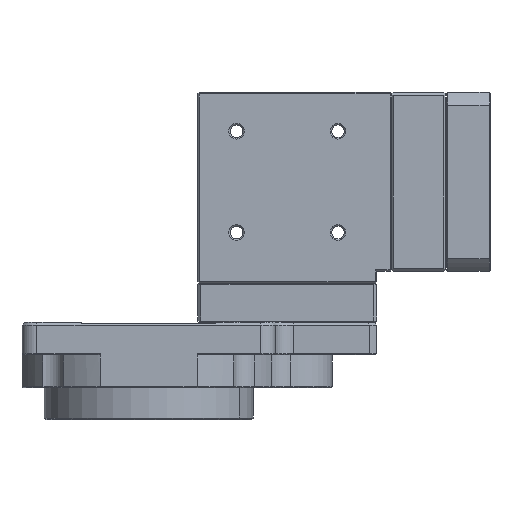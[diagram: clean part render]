
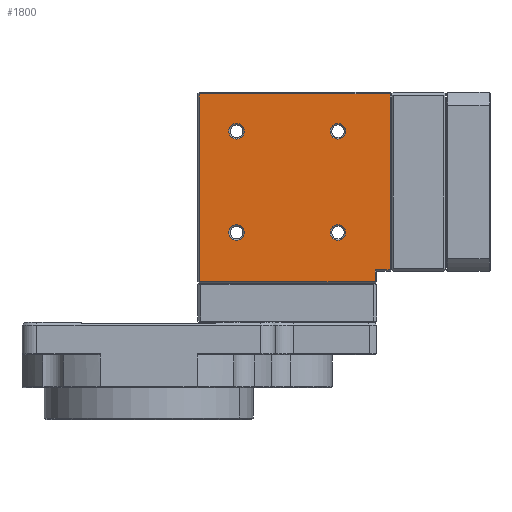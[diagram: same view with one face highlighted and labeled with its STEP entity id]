
A CAD part, left-side view. The second image highlights one B-rep face of the part: STEP entity #1800.
In plain terms, the highlighted planar face has unit normal (-1, 0, 0).
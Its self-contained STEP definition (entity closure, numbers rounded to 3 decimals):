
#1800 = ADVANCED_FACE ( 'NONE', ( #30659, #30667, #30658, #30688, #30679 ), #4026, .T. ) ;
#2734 = VERTEX_POINT ( 'NONE', #4274 ) ;
#2751 = VERTEX_POINT ( 'NONE', #4280 ) ;
#2752 = VERTEX_POINT ( 'NONE', #4307 ) ;
#2805 = VERTEX_POINT ( 'NONE', #4335 ) ;
#2811 = VERTEX_POINT ( 'NONE', #4356 ) ;
#2821 = VERTEX_POINT ( 'NONE', #4379 ) ;
#2823 = VERTEX_POINT ( 'NONE', #4365 ) ;
#2845 = VERTEX_POINT ( 'NONE', #4390 ) ;
#2848 = VERTEX_POINT ( 'NONE', #4404 ) ;
#2895 = VERTEX_POINT ( 'NONE', #4458 ) ;
#2903 = VERTEX_POINT ( 'NONE', #4430 ) ;
#2911 = VERTEX_POINT ( 'NONE', #4467 ) ;
#2913 = VERTEX_POINT ( 'NONE', #4463 ) ;
#2929 = VERTEX_POINT ( 'NONE', #4456 ) ;
#4006 = CARTESIAN_POINT ( 'NONE',  ( -30., -81.5, 77. ) ) ;
#4012 = DIRECTION ( 'NONE',  ( -1., 0., 0. ) ) ;
#4026 = PLANE ( 'NONE',  #24672 ) ;
#4030 = DIRECTION ( 'NONE',  ( 0., 1., 0. ) ) ;
#4274 = CARTESIAN_POINT ( 'NONE',  ( -30., -26.9, 64. ) ) ;
#4280 = CARTESIAN_POINT ( 'NONE',  ( -30., -32.1, 30. ) ) ;
#4307 = CARTESIAN_POINT ( 'NONE',  ( -30., -66.1, 64. ) ) ;
#4335 = CARTESIAN_POINT ( 'NONE',  ( -30., -26.9, 30. ) ) ;
#4356 = CARTESIAN_POINT ( 'NONE',  ( -30., -60.9, 64. ) ) ;
#4365 = CARTESIAN_POINT ( 'NONE',  ( -30., -60.9, 30. ) ) ;
#4379 = CARTESIAN_POINT ( 'NONE',  ( -30., -76., 17.5 ) ) ;
#4390 = CARTESIAN_POINT ( 'NONE',  ( -30., -32.1, 64. ) ) ;
#4404 = CARTESIAN_POINT ( 'NONE',  ( -30., -66.1, 30. ) ) ;
#4430 = CARTESIAN_POINT ( 'NONE',  ( -30., -81., 17.5 ) ) ;
#4456 = CARTESIAN_POINT ( 'NONE',  ( -30., -76., 13.5 ) ) ;
#4458 = CARTESIAN_POINT ( 'NONE',  ( -30., -17., 76.5 ) ) ;
#4463 = CARTESIAN_POINT ( 'NONE',  ( -30., -17., 13.5 ) ) ;
#4467 = CARTESIAN_POINT ( 'NONE',  ( -30., -81., 76.5 ) ) ;
#5850 = AXIS2_PLACEMENT_3D ( 'NONE', #13931, #13963, #13951 ) ;
#5885 = AXIS2_PLACEMENT_3D ( 'NONE', #13945, #13941, #13950 ) ;
#5924 = AXIS2_PLACEMENT_3D ( 'NONE', #14000, #13967, #13982 ) ;
#5954 = AXIS2_PLACEMENT_3D ( 'NONE', #14101, #14087, #14095 ) ;
#8285 = VECTOR ( 'NONE', #9605, 1000. ) ;
#8316 = LINE ( 'NONE', #9600, #8285 ) ;
#8321 = VECTOR ( 'NONE', #13863, 1000. ) ;
#8335 = VECTOR ( 'NONE', #13847, 1000. ) ;
#8336 = CIRCLE ( 'NONE', #5885, 2.6 ) ;
#8339 = LINE ( 'NONE', #13876, #8335 ) ;
#8376 = LINE ( 'NONE', #13861, #8321 ) ;
#8378 = CIRCLE ( 'NONE', #5850, 2.6 ) ;
#8388 = CIRCLE ( 'NONE', #5954, 2.6 ) ;
#8413 = CIRCLE ( 'NONE', #5924, 2.6 ) ;
#8443 = LINE ( 'NONE', #13993, #8444 ) ;
#8444 = VECTOR ( 'NONE', #14005, 1000. ) ;
#8459 = LINE ( 'NONE', #14179, #8498 ) ;
#8484 = VECTOR ( 'NONE', #14153, 1000. ) ;
#8498 = VECTOR ( 'NONE', #14174, 1000. ) ;
#8499 = LINE ( 'NONE', #14155, #8484 ) ;
#9600 = CARTESIAN_POINT ( 'NONE',  ( -30., -81.5, 76.5 ) ) ;
#9605 = DIRECTION ( 'NONE',  ( 0., 1., 0. ) ) ;
#12601 = ORIENTED_EDGE ( 'NONE', *, *, #16357, .T. ) ;
#12609 = ORIENTED_EDGE ( 'NONE', *, *, #22453, .T. ) ;
#12611 = ORIENTED_EDGE ( 'NONE', *, *, #22480, .T. ) ;
#12615 = ORIENTED_EDGE ( 'NONE', *, *, #16283, .T. ) ;
#12616 = ORIENTED_EDGE ( 'NONE', *, *, #16361, .T. ) ;
#12620 = ORIENTED_EDGE ( 'NONE', *, *, #16307, .T. ) ;
#12627 = ORIENTED_EDGE ( 'NONE', *, *, #16333, .T. ) ;
#12628 = ORIENTED_EDGE ( 'NONE', *, *, #16257, .T. ) ;
#12629 = ORIENTED_EDGE ( 'NONE', *, *, #16214, .T. ) ;
#12630 = ORIENTED_EDGE ( 'NONE', *, *, #16312, .T. ) ;
#12643 = ORIENTED_EDGE ( 'NONE', *, *, #22542, .T. ) ;
#12645 = ORIENTED_EDGE ( 'NONE', *, *, #16261, .T. ) ;
#12657 = ORIENTED_EDGE ( 'NONE', *, *, #16292, .T. ) ;
#12662 = ORIENTED_EDGE ( 'NONE', *, *, #22478, .T. ) ;
#13847 = DIRECTION ( 'NONE',  ( 0., -1., 0. ) ) ;
#13861 = CARTESIAN_POINT ( 'NONE',  ( -30., -76., 17. ) ) ;
#13863 = DIRECTION ( 'NONE',  ( 0., 0., 1. ) ) ;
#13876 = CARTESIAN_POINT ( 'NONE',  ( -30., -81.5, 17.5 ) ) ;
#13931 = CARTESIAN_POINT ( 'NONE',  ( -30., -63.5, 64. ) ) ;
#13941 = DIRECTION ( 'NONE',  ( 1., 0., 0. ) ) ;
#13945 = CARTESIAN_POINT ( 'NONE',  ( -30., -63.5, 30. ) ) ;
#13950 = DIRECTION ( 'NONE',  ( 0., 1., 0. ) ) ;
#13951 = DIRECTION ( 'NONE',  ( 0., 1., 0. ) ) ;
#13963 = DIRECTION ( 'NONE',  ( 1., 0., 0. ) ) ;
#13967 = DIRECTION ( 'NONE',  ( 1., 0., 0. ) ) ;
#13982 = DIRECTION ( 'NONE',  ( 0., 1., 0. ) ) ;
#13993 = CARTESIAN_POINT ( 'NONE',  ( -30., -17., 13. ) ) ;
#14000 = CARTESIAN_POINT ( 'NONE',  ( -30., -29.5, 30. ) ) ;
#14005 = DIRECTION ( 'NONE',  ( 0., 0., -1. ) ) ;
#14087 = DIRECTION ( 'NONE',  ( 1., 0., 0. ) ) ;
#14095 = DIRECTION ( 'NONE',  ( 0., 1., 0. ) ) ;
#14101 = CARTESIAN_POINT ( 'NONE',  ( -30., -29.5, 64. ) ) ;
#14153 = DIRECTION ( 'NONE',  ( 0., 0., 1. ) ) ;
#14155 = CARTESIAN_POINT ( 'NONE',  ( -30., -81., 77. ) ) ;
#14174 = DIRECTION ( 'NONE',  ( 0., -1., 0. ) ) ;
#14179 = CARTESIAN_POINT ( 'NONE',  ( -30., -76.5, 13.5 ) ) ;
#16214 = EDGE_CURVE ( 'NONE', #2911, #2895, #8316, .T. ) ;
#16257 = EDGE_CURVE ( 'NONE', #2929, #2821, #8376, .T. ) ;
#16261 = EDGE_CURVE ( 'NONE', #2821, #2903, #8339, .T. ) ;
#16283 = EDGE_CURVE ( 'NONE', #2848, #2823, #8336, .T. ) ;
#16292 = EDGE_CURVE ( 'NONE', #2752, #2811, #8378, .T. ) ;
#16307 = EDGE_CURVE ( 'NONE', #2751, #2805, #8413, .T. ) ;
#16312 = EDGE_CURVE ( 'NONE', #2895, #2913, #8443, .T. ) ;
#16333 = EDGE_CURVE ( 'NONE', #2845, #2734, #8388, .T. ) ;
#16357 = EDGE_CURVE ( 'NONE', #2913, #2929, #8459, .T. ) ;
#16361 = EDGE_CURVE ( 'NONE', #2903, #2911, #8499, .T. ) ;
#18090 = EDGE_LOOP ( 'NONE', ( #12609, #12620 ) ) ;
#18102 = EDGE_LOOP ( 'NONE', ( #12611, #12627 ) ) ;
#18104 = EDGE_LOOP ( 'NONE', ( #12662, #12657 ) ) ;
#18150 = EDGE_LOOP ( 'NONE', ( #12601, #12628, #12645, #12616, #12629, #12630 ) ) ;
#18162 = EDGE_LOOP ( 'NONE', ( #12643, #12615 ) ) ;
#21415 = AXIS2_PLACEMENT_3D ( 'NONE', #28565, #28564, #28579 ) ;
#21423 = AXIS2_PLACEMENT_3D ( 'NONE', #28635, #28637, #28642 ) ;
#21446 = AXIS2_PLACEMENT_3D ( 'NONE', #28677, #28643, #28644 ) ;
#21468 = AXIS2_PLACEMENT_3D ( 'NONE', #28972, #28974, #28975 ) ;
#22453 = EDGE_CURVE ( 'NONE', #2805, #2751, #25317, .T. ) ;
#22478 = EDGE_CURVE ( 'NONE', #2811, #2752, #25408, .T. ) ;
#22480 = EDGE_CURVE ( 'NONE', #2734, #2845, #25389, .T. ) ;
#22542 = EDGE_CURVE ( 'NONE', #2823, #2848, #25468, .T. ) ;
#24672 = AXIS2_PLACEMENT_3D ( 'NONE', #4006, #4012, #4030 ) ;
#25317 = CIRCLE ( 'NONE', #21415, 2.6 ) ;
#25389 = CIRCLE ( 'NONE', #21446, 2.6 ) ;
#25408 = CIRCLE ( 'NONE', #21423, 2.6 ) ;
#25468 = CIRCLE ( 'NONE', #21468, 2.6 ) ;
#28564 = DIRECTION ( 'NONE',  ( 1., 0., 0. ) ) ;
#28565 = CARTESIAN_POINT ( 'NONE',  ( -30., -29.5, 30. ) ) ;
#28579 = DIRECTION ( 'NONE',  ( 0., 1., 0. ) ) ;
#28635 = CARTESIAN_POINT ( 'NONE',  ( -30., -63.5, 64. ) ) ;
#28637 = DIRECTION ( 'NONE',  ( 1., 0., 0. ) ) ;
#28642 = DIRECTION ( 'NONE',  ( 0., 1., 0. ) ) ;
#28643 = DIRECTION ( 'NONE',  ( 1., 0., 0. ) ) ;
#28644 = DIRECTION ( 'NONE',  ( 0., 1., 0. ) ) ;
#28677 = CARTESIAN_POINT ( 'NONE',  ( -30., -29.5, 64. ) ) ;
#28972 = CARTESIAN_POINT ( 'NONE',  ( -30., -63.5, 30. ) ) ;
#28974 = DIRECTION ( 'NONE',  ( 1., 0., 0. ) ) ;
#28975 = DIRECTION ( 'NONE',  ( 0., 1., 0. ) ) ;
#30658 = FACE_BOUND ( 'NONE', #18090, .T. ) ;
#30659 = FACE_BOUND ( 'NONE', #18104, .T. ) ;
#30667 = FACE_BOUND ( 'NONE', #18102, .T. ) ;
#30679 = FACE_OUTER_BOUND ( 'NONE', #18150, .T. ) ;
#30688 = FACE_BOUND ( 'NONE', #18162, .T. ) ;
